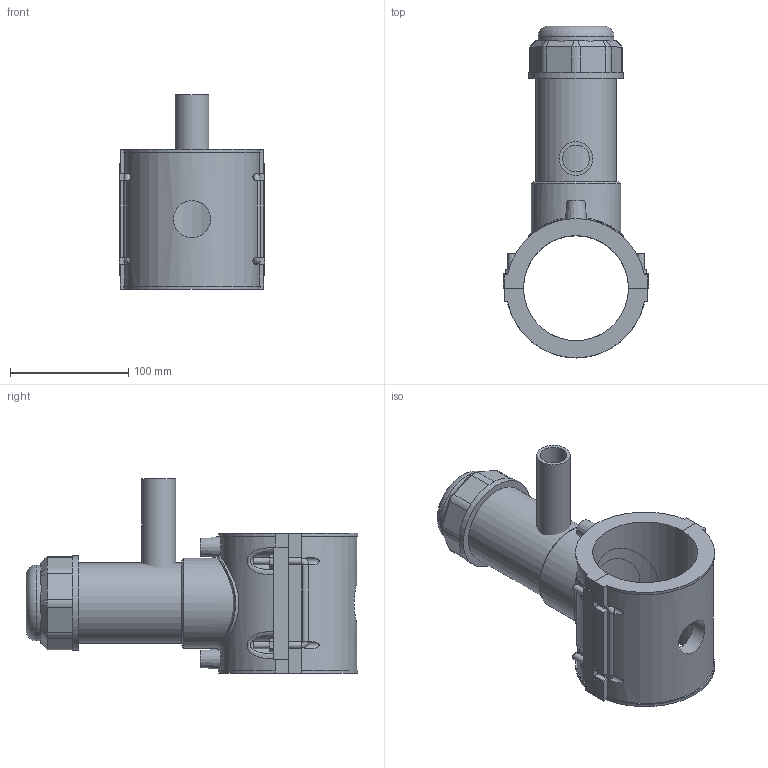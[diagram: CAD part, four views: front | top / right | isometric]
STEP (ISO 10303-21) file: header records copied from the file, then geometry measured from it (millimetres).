
FILE_DESCRIPTION(/* description */ ('PLASSON TAPPING SADDLE 3''''IPS x 1''''CTS'),/* implementation_level */ '2;1');
FILE_NAME(/* name */ 'C:\Dropbox\KIMPROJECTS-Inventor 2019\99-16-3568-Processing Inch\ASTM ElectroFusion 2021\5963BBP_5963BUP\5963BUP3030010.ipt.stp',/* time_stamp */ '2021-08-30T09:57:43+03:00',/* author */ ('KIM'),/* organization */ (''),/* preprocessor_version */ 'ST-DEVELOPER v17.2',/* originating_system */ 'Autodesk Inventor 2019',/* authorisation */ '');
FILE_SCHEMA (('AUTOMOTIVE_DESIGN { 1 0 10303 214 3 1 1 }'));
Length unit declared in the file: inch
Products named in the file (1): 5963BUP3030010
Bounding box: 122.9 x 280.2 x 163.96 mm (x, y, z)
Volume: 941805.2 mm3; surface area: 195959 mm2
Topology: 3 solids, 3 shells, 204 faces, 543 edges, 356 vertices
Faces by surface type: plane 125, cylinder 53, cone 15, bspline 10, torus 1
Full cylindrical faces by diameter (mm): 4 x2, 6 x8, 10 x2, 22.76 x1, 28.45 x1, 31.36 x1, 55.881 x1, 63.864 x1, 67.856 x1, 75.839 x1, 79.83 x1
Entity records: 7875 total; most frequent: CARTESIAN_POINT 2739, ORIENTED_EDGE 1086, DIRECTION 1022, EDGE_CURVE 543, VERTEX_POINT 356, AXIS2_PLACEMENT_3D 351, LINE 320, VECTOR 320
